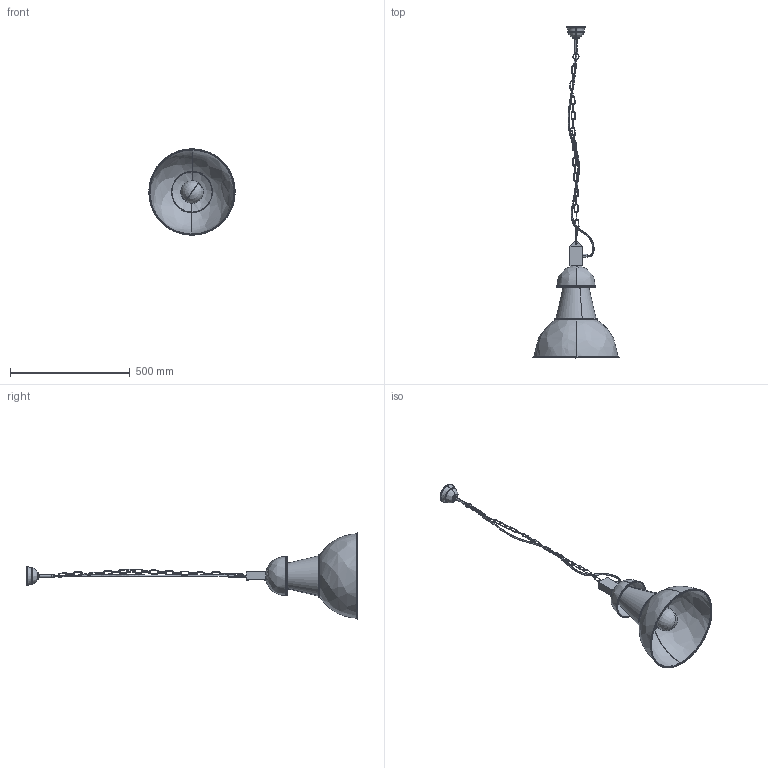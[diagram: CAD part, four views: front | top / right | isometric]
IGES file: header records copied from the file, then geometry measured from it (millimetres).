
Start section: SolidWorks IGES file using analytic representation for surfaces
Global section: file name: E:\3D lampy\HighBay\High-bay_zwiesie part.IGS; native system: SolidWorks 2016; preprocessor: SolidWorks 2016; author: Asia; date: 161005.110855; units: millimetre
Bounding box: 359.91 x 1384.95 x 359.91 mm (x, y, z)
Surface area: 860358.3 mm2 (no closed solid volume)
Topology: 0 solids, 0 shells, 661 faces, 6670 edges, 6661 vertices
Faces by surface type: bspline 395, revolution 266
